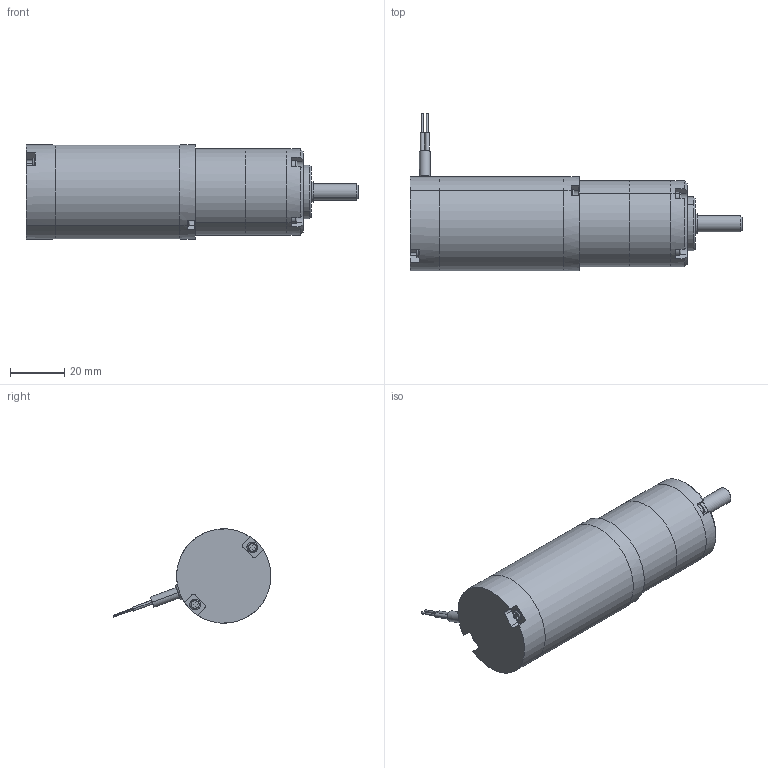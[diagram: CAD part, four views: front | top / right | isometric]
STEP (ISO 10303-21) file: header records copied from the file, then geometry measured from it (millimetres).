
FILE_DESCRIPTION (( 'STEP AP203' ), '1' );
FILE_NAME ('s14247gp1.step', '2018-12-07T19:52:47', ( '' ), ( '' ), 'SwSTEP 2.0', 'SolidWorks 2017', '' );
FILE_SCHEMA (( 'CONFIG_CONTROL_DESIGN' ));
Length unit declared in the file: inch
Products named in the file (1): s14247gp1
Bounding box: 122.91 x 58.45 x 34.91 mm (x, y, z)
Volume: 91131.9 mm3; surface area: 24579.5 mm2
Topology: 13 solids, 13 shells, 308 faces, 744 edges, 480 vertices
Faces by surface type: plane 171, cylinder 97, torus 21, cone 19
Entity records: 9103 total; most frequent: CARTESIAN_POINT 1629, DIRECTION 1594, ORIENTED_EDGE 1472, EDGE_CURVE 736, AXIS2_PLACEMENT_3D 565, VERTEX_POINT 480, LINE 464, VECTOR 464
